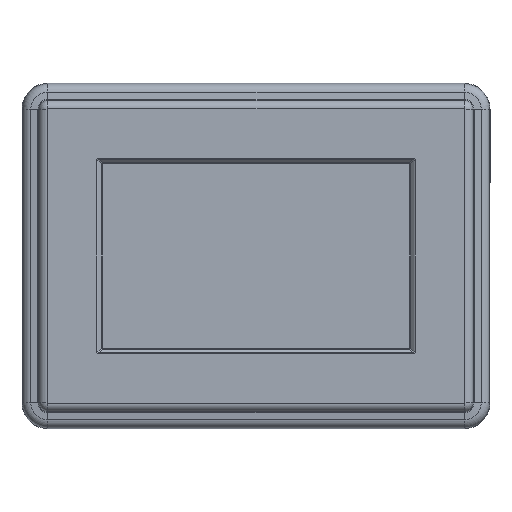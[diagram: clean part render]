
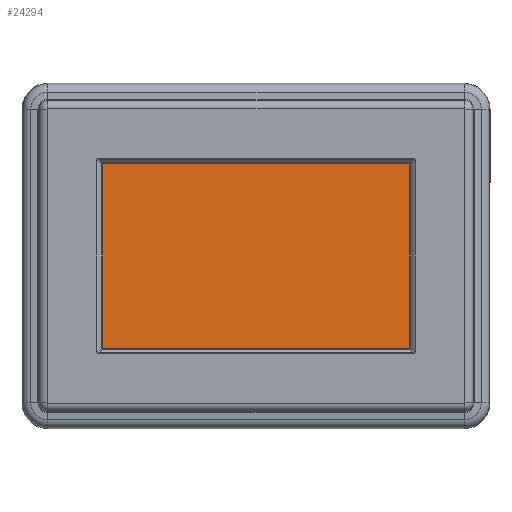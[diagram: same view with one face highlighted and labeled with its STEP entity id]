
A CAD part, front view. The second image highlights one B-rep face of the part: STEP entity #24294.
In plain terms, the highlighted planar face has unit normal (0, -1, 0) as drawn and (0, 0, -1) by its records, which use the part's own axes.
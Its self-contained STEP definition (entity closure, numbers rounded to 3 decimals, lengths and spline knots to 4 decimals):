
#2066 = CARTESIAN_POINT ( 'NONE',  ( -1.5001, -2.5001, 0.07 ) ) ;
#2122 = CARTESIAN_POINT ( 'NONE',  ( -1.5001, 2.5001, 0.07 ) ) ;
#2334 = CARTESIAN_POINT ( 'NONE',  ( 1.5825, 2.5825, 0.07 ) ) ;
#2345 = PLANE ( 'NONE',  #36624 ) ;
#2357 = DIRECTION ( 'NONE',  ( 0., 0., 1. ) ) ;
#2359 = DIRECTION ( 'NONE',  ( 1., 0., 0. ) ) ;
#5682 = LINE ( 'NONE', #21856, #5688 ) ;
#5688 = VECTOR ( 'NONE', #21857, 39.3701 ) ;
#5713 = VECTOR ( 'NONE', #7154, 39.3701 ) ;
#5727 = LINE ( 'NONE', #7153, #5713 ) ;
#5736 = LINE ( 'NONE', #7176, #5737 ) ;
#5737 = VECTOR ( 'NONE', #7177, 39.3701 ) ;
#6049 = VECTOR ( 'NONE', #6662, 39.3701 ) ;
#6051 = LINE ( 'NONE', #6661, #6049 ) ;
#6661 = CARTESIAN_POINT ( 'NONE',  ( -1.5125, -2.5001, 0.07 ) ) ;
#6662 = DIRECTION ( 'NONE',  ( -1., 0., 0. ) ) ;
#7153 = CARTESIAN_POINT ( 'NONE',  ( 1.5125, 2.5001, 0.07 ) ) ;
#7154 = DIRECTION ( 'NONE',  ( 1., 0., 0. ) ) ;
#7176 = CARTESIAN_POINT ( 'NONE',  ( 1.5001, -2.5125, 0.07 ) ) ;
#7177 = DIRECTION ( 'NONE',  ( 0., -1., 0. ) ) ;
#21856 = CARTESIAN_POINT ( 'NONE',  ( -1.5001, 2.5125, 0.07 ) ) ;
#21857 = DIRECTION ( 'NONE',  ( 0., 1., 0. ) ) ;
#24294 = ADVANCED_FACE ( 'NONE', ( #37683 ), #2345, .F. ) ;
#25196 = CARTESIAN_POINT ( 'NONE',  ( 1.5001, -2.5001, 0.07 ) ) ;
#25322 = CARTESIAN_POINT ( 'NONE',  ( 1.5001, 2.5001, 0.07 ) ) ;
#25708 = EDGE_CURVE ( 'NONE', #31887, #31918, #5682, .T. ) ;
#25744 = EDGE_CURVE ( 'NONE', #31918, #39746, #5727, .T. ) ;
#25752 = EDGE_CURVE ( 'NONE', #39746, #39515, #5736, .T. ) ;
#26243 = EDGE_CURVE ( 'NONE', #39515, #31887, #6051, .T. ) ;
#31887 = VERTEX_POINT ( 'NONE', #2066 ) ;
#31918 = VERTEX_POINT ( 'NONE', #2122 ) ;
#36624 = AXIS2_PLACEMENT_3D ( 'NONE', #2334, #2357, #2359 ) ;
#37683 = FACE_OUTER_BOUND ( 'NONE', #41193, .T. ) ;
#39515 = VERTEX_POINT ( 'NONE', #25196 ) ;
#39746 = VERTEX_POINT ( 'NONE', #25322 ) ;
#40948 = ORIENTED_EDGE ( 'NONE', *, *, #26243, .T. ) ;
#40949 = ORIENTED_EDGE ( 'NONE', *, *, #25752, .T. ) ;
#40950 = ORIENTED_EDGE ( 'NONE', *, *, #25744, .T. ) ;
#40951 = ORIENTED_EDGE ( 'NONE', *, *, #25708, .T. ) ;
#41193 = EDGE_LOOP ( 'NONE', ( #40951, #40950, #40949, #40948 ) ) ;
